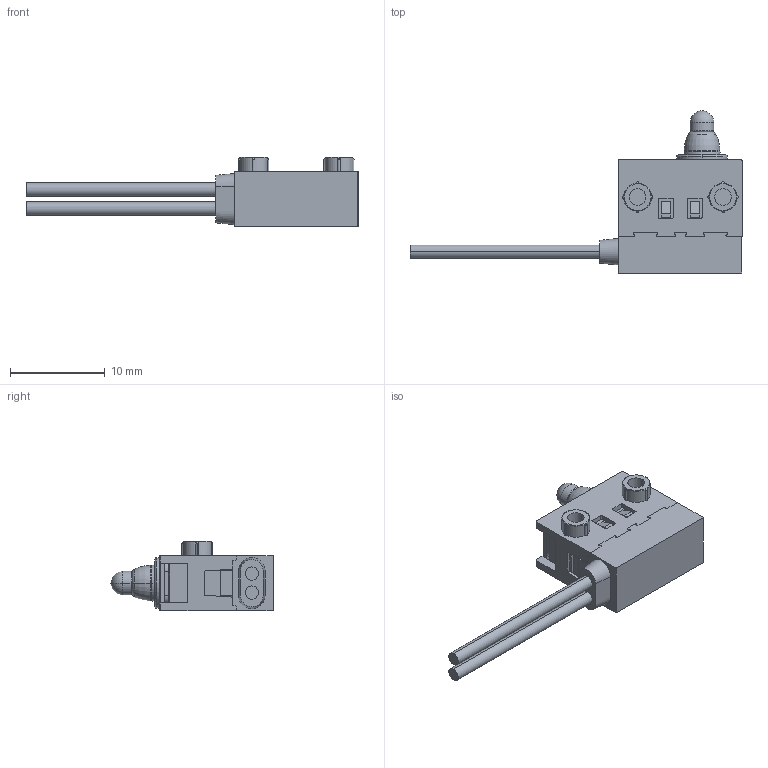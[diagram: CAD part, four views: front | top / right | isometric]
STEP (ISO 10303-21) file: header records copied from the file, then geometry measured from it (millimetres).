
FILE_DESCRIPTION (( 'STEP AP214' ), '1' );
FILE_NAME ('SPVQ361900.STEP', '2011-03-19T07:28:54', ( '' ), ( '' ), 'SwSTEP 2.0', 'SolidWorks 2007', '' );
FILE_SCHEMA (( 'AUTOMOTIVE_DESIGN' ));
Length unit declared in the file: millimetre
Products named in the file (1): SPVQ361900
Bounding box: 35 x 17.09 x 7.3 mm (x, y, z)
Volume: 998.7 mm3; surface area: 1358.2 mm2
Topology: 1 solids, 1 shells, 322 faces, 916 edges, 593 vertices
Faces by surface type: plane 184, cylinder 112, torus 14, cone 8, bspline 2, sphere 2
Entity records: 14125 total; most frequent: CARTESIAN_POINT 2046, ORIENTED_EDGE 1824, DIRECTION 1788, EDGE_CURVE 912, LINE 634, VECTOR 634, VERTEX_POINT 591, AXIS2_PLACEMENT_3D 577
